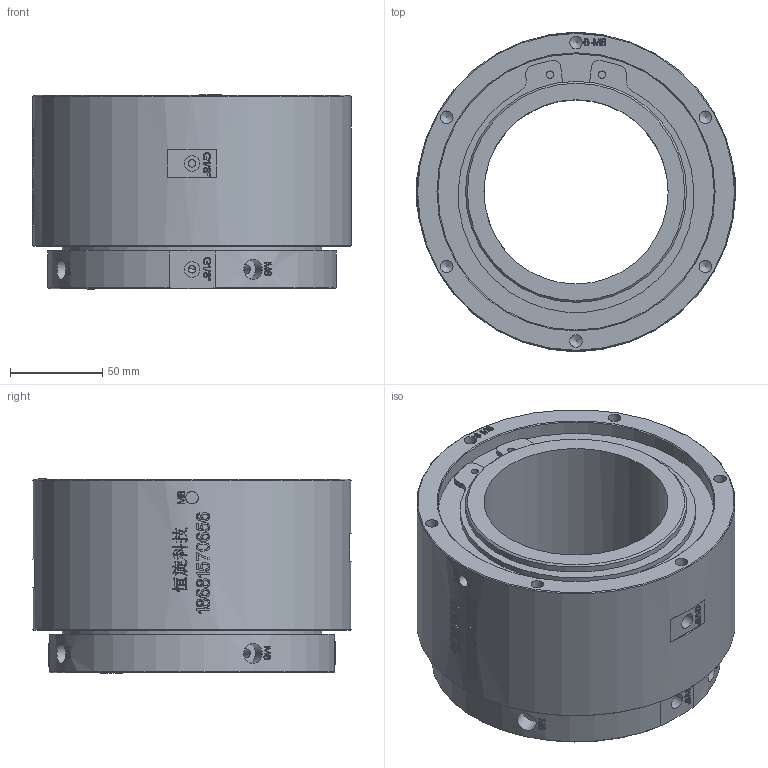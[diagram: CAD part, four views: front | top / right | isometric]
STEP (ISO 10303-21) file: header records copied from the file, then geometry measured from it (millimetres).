
FILE_DESCRIPTION(/* description */ (''),/* implementation_level */ '2;1');
FILE_NAME(/* name */ 'HQ0201-D100-3D模型.stp',/* time_stamp */ '2025-08-05T15:20:37+08:00',/* author */ (''),/* organization */ (''),/* preprocessor_version */ 'ST-DEVELOPER v16.7',/* originating_system */ 'SIEMENS PLM Software NX 12.0',/* authorisation */ '');
FILE_SCHEMA (('AUTOMOTIVE_DESIGN { 1 0 10303 214 3 1 1 1 }'));
Products named in the file (1): Admi16E026DChxie
Bounding box: 173.29 x 173 x 105.4 mm (x, y, z)
Volume: 1477898.7 mm3; surface area: 143050.3 mm2
Topology: 1 solids, 1 shells, 1469 faces, 4020 edges, 2679 vertices
Faces by surface type: extrusion 834, plane 471, cylinder 75, bspline 70, cone 19
Full cylindrical faces by diameter (mm): 4 x8, 4.2 x2, 5 x4, 6.8 x12, 8.5 x4, 11 x4, 100 x1, 116 x1, 120 x1, 141 x1, 150 x1, 165 x1, 173 x1
Entity records: 57906 total; most frequent: CARTESIAN_POINT 27066, ORIENTED_EDGE 7868, B_SPLINE_CURVE_WITH_KNOTS 3960, EDGE_CURVE 3934, DIRECTION 3070, VERTEX_POINT 2662, EDGE_LOOP 1668, ADVANCED_FACE 1469
